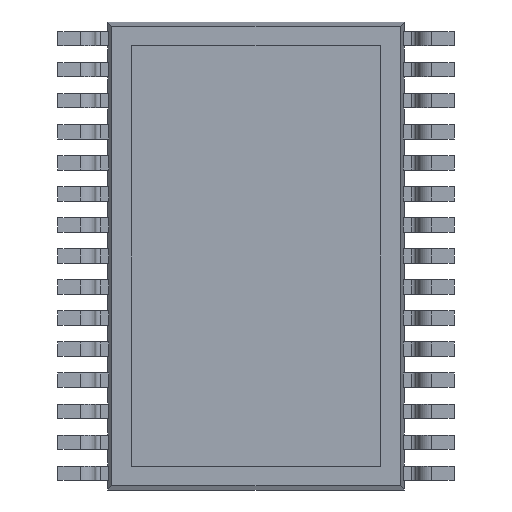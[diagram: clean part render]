
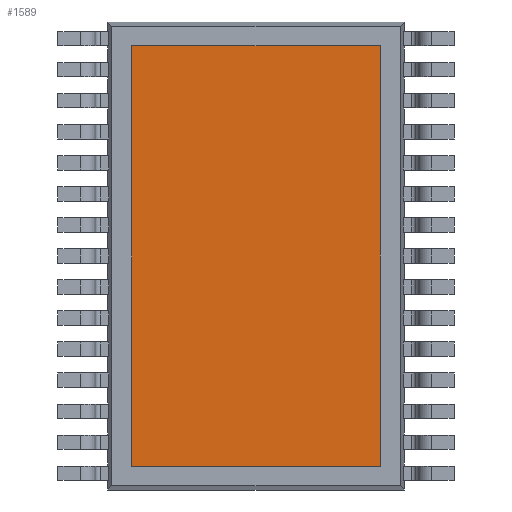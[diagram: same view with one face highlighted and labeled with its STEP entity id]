
A CAD part, front view. The second image highlights one B-rep face of the part: STEP entity #1589.
In plain terms, the highlighted planar face has unit normal (0, -1, 0).
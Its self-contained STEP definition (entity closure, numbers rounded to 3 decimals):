
#1589 = ADVANCED_FACE ( 'NONE', ( #8666 ), #8144, .F. ) ;
#2536 = EDGE_CURVE ( 'NONE', #5761, #5754, #18880, .T. ) ;
#2539 = EDGE_CURVE ( 'NONE', #5754, #5757, #18893, .T. ) ;
#2541 = EDGE_CURVE ( 'NONE', #5757, #5760, #18895, .T. ) ;
#2542 = EDGE_CURVE ( 'NONE', #5760, #5761, #18901, .T. ) ;
#2667 = AXIS2_PLACEMENT_3D ( 'NONE', #8163, #8164, #8165 ) ;
#5235 = ORIENTED_EDGE ( 'NONE', *, *, #2536, .T. ) ;
#5236 = ORIENTED_EDGE ( 'NONE', *, *, #2539, .T. ) ;
#5237 = ORIENTED_EDGE ( 'NONE', *, *, #2541, .T. ) ;
#5238 = ORIENTED_EDGE ( 'NONE', *, *, #2542, .T. ) ;
#5754 = VERTEX_POINT ( 'NONE', #19181 ) ;
#5757 = VERTEX_POINT ( 'NONE', #19184 ) ;
#5760 = VERTEX_POINT ( 'NONE', #19187 ) ;
#5761 = VERTEX_POINT ( 'NONE', #19188 ) ;
#5874 = EDGE_LOOP ( 'NONE', ( #5235, #5236, #5237, #5238 ) ) ;
#8144 = PLANE ( 'NONE',  #2667 ) ;
#8163 = CARTESIAN_POINT ( 'NONE',  ( 0., 0., 0. ) ) ;
#8164 = DIRECTION ( 'NONE',  ( 0., 1., 0. ) ) ;
#8165 = DIRECTION ( 'NONE',  ( 0., 0., 1. ) ) ;
#8666 = FACE_OUTER_BOUND ( 'NONE', #5874, .T. ) ;
#18421 = CARTESIAN_POINT ( 'NONE',  ( 2.6, 0., 4.4 ) ) ;
#18426 = DIRECTION ( 'NONE',  ( 0., 0., 1. ) ) ;
#18427 = CARTESIAN_POINT ( 'NONE',  ( -2.6, 0., 4.4 ) ) ;
#18429 = CARTESIAN_POINT ( 'NONE',  ( -2.6, 0., 4.4 ) ) ;
#18432 = DIRECTION ( 'NONE',  ( -1., 0., 0. ) ) ;
#18436 = DIRECTION ( 'NONE',  ( 0., 0., -1. ) ) ;
#18437 = CARTESIAN_POINT ( 'NONE',  ( -2.6, 0., -4.4 ) ) ;
#18439 = DIRECTION ( 'NONE',  ( 1., 0., 0. ) ) ;
#18880 = LINE ( 'NONE', #18421, #18892 ) ;
#18892 = VECTOR ( 'NONE', #18426, 1000. ) ;
#18893 = LINE ( 'NONE', #18427, #18898 ) ;
#18895 = LINE ( 'NONE', #18429, #18902 ) ;
#18898 = VECTOR ( 'NONE', #18432, 1000. ) ;
#18901 = LINE ( 'NONE', #18437, #18904 ) ;
#18902 = VECTOR ( 'NONE', #18436, 1000. ) ;
#18904 = VECTOR ( 'NONE', #18439, 1000. ) ;
#19181 = CARTESIAN_POINT ( 'NONE',  ( 2.6, 0., 4.4 ) ) ;
#19184 = CARTESIAN_POINT ( 'NONE',  ( -2.6, 0., 4.4 ) ) ;
#19187 = CARTESIAN_POINT ( 'NONE',  ( -2.6, 0., -4.4 ) ) ;
#19188 = CARTESIAN_POINT ( 'NONE',  ( 2.6, 0., -4.4 ) ) ;
